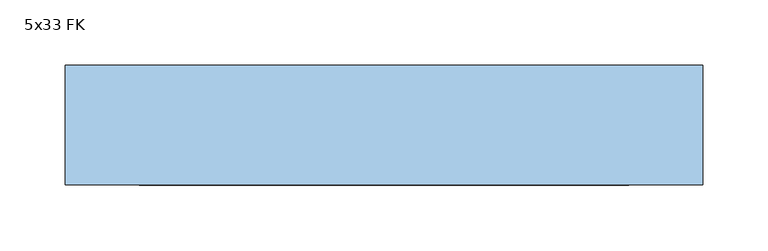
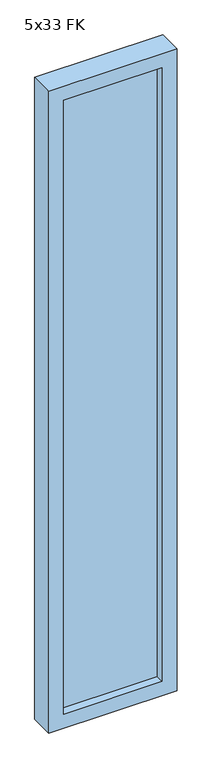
"""IFC4 building model written with IfcOpenShell, lengths in millimetres: window geometry, Vindu FK : 5x33 FK."""

from ifc_helpers import new_model, si_unit, frame, origin, place, context, project, spatial, polyline, outline, extrude, faceted_brep, source, transform, mapped, element, save


def window_5x33_fk_66d88bd4(model_context):
    return source(origin(), model_context, "Body", "SolidModel", [
        extrude(outline(polyline([(-206.0, 11.0), (206.0, 11.0), (206.0, -13.0), (-206.0, -13.0), (-206.0, 11.0)])), frame((0.0, 0.0, 929.0), z_axis=(0.0, 0.0, 1.0), x_axis=(1.0, 0.0, 0.0)), (0.0, 0.0, 1.0), 2512.0),
        faceted_brep([(-245.0, 47.0, 890.0), (-245.0, -45.0, 890.0), (-245.0, -45.0, 3480.0), (-245.0, 47.0, 3480.0), (-206.0, -13.0, 929.0), (-206.0, 47.0, 929.0), (-206.0, 47.0, 3441.0), (-206.0, -13.0, 3441.0), (-188.0, -45.0, 947.0), (-188.0, -13.0, 947.0), (-188.0, -13.0, 3423.0), (-188.0, -45.0, 3423.0), (245.0, -45.0, 3480.0), (245.0, 47.0, 3480.0), (206.0, 47.0, 3441.0), (206.0, -13.0, 3441.0), (188.0, -13.0, 3423.0), (188.0, -45.0, 3423.0), (245.0, -45.0, 890.0), (245.0, 47.0, 890.0), (206.0, 47.0, 929.0), (206.0, -13.0, 929.0), (188.0, -13.0, 947.0), (188.0, -45.0, 947.0)], [[[0, 1, 2, 3]], [[4, 5, 6, 7]], [[8, 9, 10, 11]], [[3, 2, 12, 13]], [[7, 6, 14, 15]], [[11, 10, 16, 17]], [[13, 12, 18, 19]], [[15, 14, 20, 21]], [[17, 16, 22, 23]], [[19, 18, 1, 0]], [[3, 13, 19, 0], [5, 20, 14, 6]], [[21, 20, 5, 4]], [[7, 15, 21, 4], [9, 22, 16, 10]], [[23, 22, 9, 8]], [[1, 18, 12, 2], [11, 17, 23, 8]]]),
    ])


if __name__ == "__main__":
    model = new_model("IFC4")
    model_context = context("Model", 3, world=origin())
    ifc_project = project(units=[si_unit("LENGTHUNIT", "METRE", prefix="MILLI")], contexts=[model_context])
    site = spatial("IfcSite", under=ifc_project)
    building = spatial("IfcBuilding", under=site)
    placement = place(None, origin())
    window_5x33_fk_shape = window_5x33_fk_66d88bd4(model_context)
    element("IfcWindow", 1, ObjectType="Vindu FK : 5x33 FK", at=placement, inside=building, context=model_context, shape_type="MappedRepresentation", body=[
        mapped(window_5x33_fk_shape, transform((0.0, 0.0, 0.0), x_axis=(1.0, 0.0, 0.0), y_axis=(0.0, 1.0, 0.0), z_axis=(0.0, 0.0, 1.0))),
    ])
    save(model, "model.ifc")
